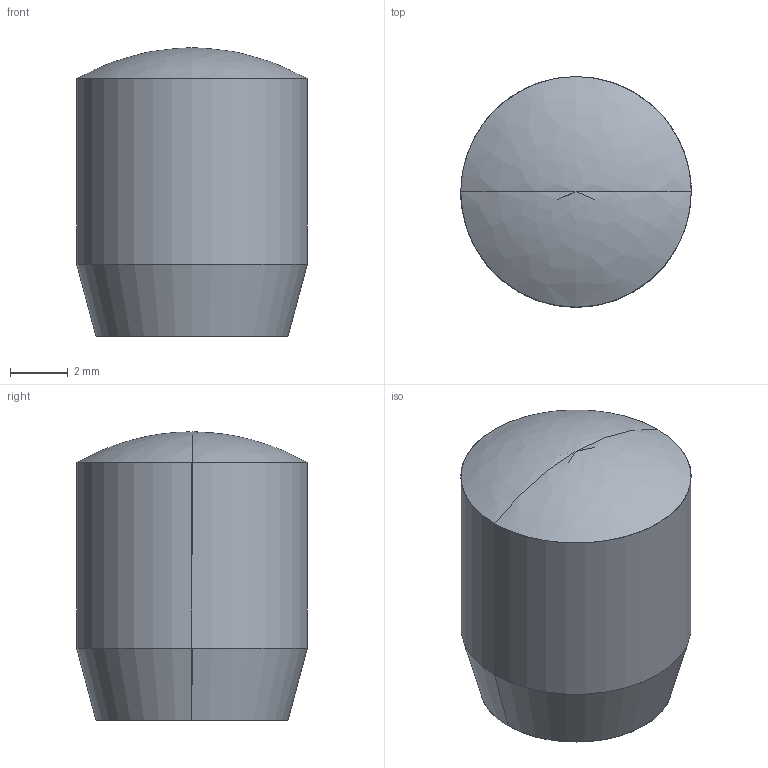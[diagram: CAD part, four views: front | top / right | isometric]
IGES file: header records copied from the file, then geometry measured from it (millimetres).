
Global section: file name: E:\UnigraphicsGraphicData\MISUMI_PRESS-PARTS\IGES\3d_ms8-10_00425_r00.igs; native system: NX V5.0; preprocessor: UGS NX IGES V5.0; author: MISUMI; date: 20110105.161513; units: millimetre
Bounding box: 8 x 8 x 10 mm (x, y, z)
Surface area: 310 mm2 (no closed solid volume)
Topology: 0 solids, 0 shells, 7 faces, 32 edges, 30 vertices
Faces by surface type: bspline 7
